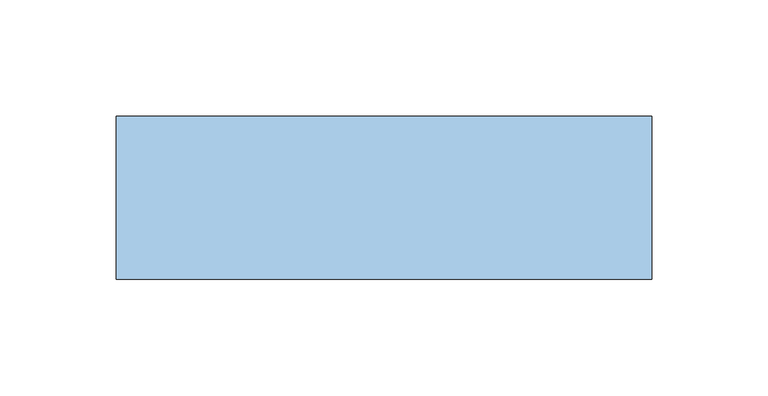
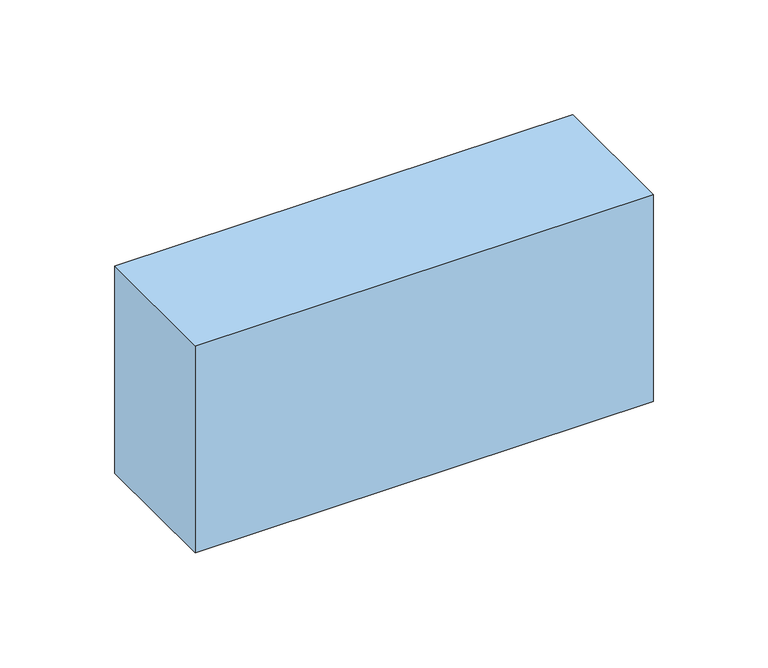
"""IFC4 building model written with IfcOpenShell, lengths in millimetres: window geometry, Wn_KR_Ниша в стене : Wn_KR_Ниша в стене."""

from ifc_helpers import new_model, si_unit, origin, origin_with_axes, place, context, project, spatial, polyline, outline, extrude, source, transform, mapped, element, save


def window_19e0ad27(model_context):
    return source(origin(), model_context, "Body", "SweptSolid", [
        extrude(outline(polyline([(240.0, -10.0), (240.0, -80.0), (10.0, -80.0), (10.0, -10.0), (240.0, -10.0)])), origin_with_axes(), (0.0, 0.0, 1.0), 110.0),
    ])


if __name__ == "__main__":
    model = new_model("IFC4")
    model_context = context("Model", 3, world=origin())
    ifc_project = project(units=[si_unit("LENGTHUNIT", "METRE", prefix="MILLI")], contexts=[model_context])
    site = spatial("IfcSite", under=ifc_project)
    building = spatial("IfcBuilding", under=site)
    placement = place(None, origin())
    window_shape = window_19e0ad27(model_context)
    element("IfcWindow", 1, ObjectType="Wn_KR_Ниша в стене : Wn_KR_Ниша в стене", at=placement, inside=building, context=model_context, shape_type="MappedRepresentation", body=[
        mapped(window_shape, transform((0.0, 0.0, 0.0), x_axis=(1.0, 0.0, 0.0), y_axis=(0.0, 1.0, 0.0), z_axis=(0.0, 0.0, 1.0))),
    ])
    save(model, "model.ifc")
